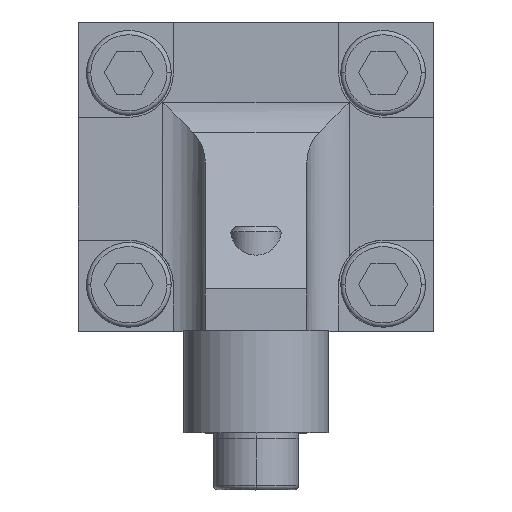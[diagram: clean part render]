
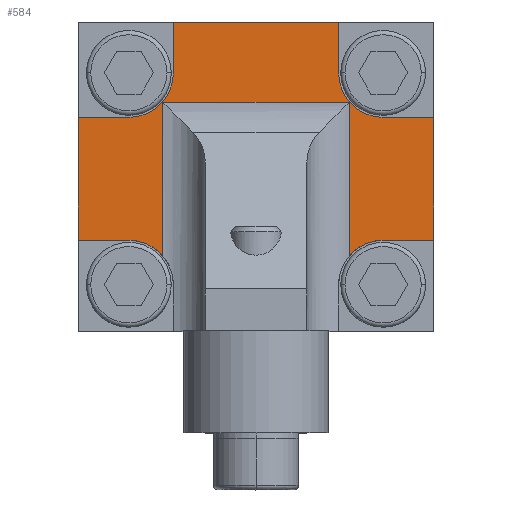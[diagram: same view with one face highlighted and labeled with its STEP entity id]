
A CAD part, top view. The second image highlights one B-rep face of the part: STEP entity #584.
In plain terms, the highlighted planar face has unit normal (0, 0, 1).
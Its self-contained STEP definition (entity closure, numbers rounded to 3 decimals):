
#11 = DIRECTION ( 'NONE',  ( 0., 0., -1. ) ) ;
#39 = DIRECTION ( 'NONE',  ( 1., 0., 0. ) ) ;
#70 = ORIENTED_EDGE ( 'NONE', *, *, #3861, .T. ) ;
#105 = EDGE_CURVE ( 'NONE', #2821, #6023, #6749, .T. ) ;
#134 = VECTOR ( 'NONE', #334, 1000. ) ;
#147 = VECTOR ( 'NONE', #1211, 1000. ) ;
#201 = ORIENTED_EDGE ( 'NONE', *, *, #4962, .F. ) ;
#326 = DIRECTION ( 'NONE',  ( 0., 0., 1. ) ) ;
#334 = DIRECTION ( 'NONE',  ( 0., -1., 0. ) ) ;
#359 = VERTEX_POINT ( 'NONE', #1442 ) ;
#366 = ORIENTED_EDGE ( 'NONE', *, *, #4429, .F. ) ;
#395 = CARTESIAN_POINT ( 'NONE',  ( 15., 17.5, 12. ) ) ;
#419 = ORIENTED_EDGE ( 'NONE', *, *, #2150, .F. ) ;
#472 = LINE ( 'NONE', #6449, #6405 ) ;
#490 = CARTESIAN_POINT ( 'NONE',  ( 9.75, 48.5, 12. ) ) ;
#509 = DIRECTION ( 'NONE',  ( 0., 0., 1. ) ) ;
#515 = EDGE_CURVE ( 'NONE', #4555, #2652, #6852, .T. ) ;
#544 = CARTESIAN_POINT ( 'NONE',  ( -11., 39.036, 12. ) ) ;
#584 = ADVANCED_FACE ( 'NONE', ( #5894 ), #1012, .F. ) ;
#834 = VECTOR ( 'NONE', #39, 1000. ) ;
#866 = DIRECTION ( 'NONE',  ( -1., 0., 0. ) ) ;
#894 = VERTEX_POINT ( 'NONE', #5684 ) ;
#917 = CARTESIAN_POINT ( 'NONE',  ( -21., 37.25, 12. ) ) ;
#1012 = PLANE ( 'NONE',  #2765 ) ;
#1025 = CARTESIAN_POINT ( 'NONE',  ( 11., 39.036, 12. ) ) ;
#1058 = AXIS2_PLACEMENT_3D ( 'NONE', #1494, #509, #4236 ) ;
#1085 = VECTOR ( 'NONE', #4563, 1000. ) ;
#1211 = DIRECTION ( 'NONE',  ( -1., 0., 0. ) ) ;
#1261 = VECTOR ( 'NONE', #1332, 1000. ) ;
#1284 = CARTESIAN_POINT ( 'NONE',  ( 0., 22.75, 12. ) ) ;
#1332 = DIRECTION ( 'NONE',  ( -1., 0., 0. ) ) ;
#1442 = CARTESIAN_POINT ( 'NONE',  ( -11., 20.9, 12. ) ) ;
#1458 = CARTESIAN_POINT ( 'NONE',  ( -15., 42.5, 12. ) ) ;
#1493 = AXIS2_PLACEMENT_3D ( 'NONE', #1458, #326, #2389 ) ;
#1494 = CARTESIAN_POINT ( 'NONE',  ( -15., 17.5, 12. ) ) ;
#1560 = EDGE_CURVE ( 'NONE', #6785, #1960, #1587, .T. ) ;
#1587 = LINE ( 'NONE', #3215, #5888 ) ;
#1718 = LINE ( 'NONE', #5992, #4336 ) ;
#1755 = LINE ( 'NONE', #6087, #147 ) ;
#1785 = LINE ( 'NONE', #1284, #3768 ) ;
#1799 = DIRECTION ( 'NONE',  ( 1., 0., 0. ) ) ;
#1840 = CARTESIAN_POINT ( 'NONE',  ( -15., 37.25, 12. ) ) ;
#1960 = VERTEX_POINT ( 'NONE', #5734 ) ;
#2092 = CIRCLE ( 'NONE', #3464, 5.25 ) ;
#2150 = EDGE_CURVE ( 'NONE', #3324, #6438, #4955, .T. ) ;
#2203 = CARTESIAN_POINT ( 'NONE',  ( 21., 37.25, 12. ) ) ;
#2217 = CARTESIAN_POINT ( 'NONE',  ( 9.75, 0., 12. ) ) ;
#2276 = DIRECTION ( 'NONE',  ( 0., -1., 0. ) ) ;
#2301 = EDGE_CURVE ( 'NONE', #5975, #2548, #2466, .T. ) ;
#2357 = CARTESIAN_POINT ( 'NONE',  ( 15., 37.25, 12. ) ) ;
#2368 = CARTESIAN_POINT ( 'NONE',  ( -15., 22.75, 12. ) ) ;
#2369 = CARTESIAN_POINT ( 'NONE',  ( -9.75, 42.5, 12. ) ) ;
#2389 = DIRECTION ( 'NONE',  ( -1., 0., 0. ) ) ;
#2464 = ORIENTED_EDGE ( 'NONE', *, *, #5748, .T. ) ;
#2466 = LINE ( 'NONE', #5226, #2883 ) ;
#2548 = VERTEX_POINT ( 'NONE', #3873 ) ;
#2592 = EDGE_LOOP ( 'NONE', ( #6215, #6708, #70, #366, #201, #3452, #419, #2709, #5868, #2464, #4112, #3721, #3971, #6617, #2949, #4156 ) ) ;
#2652 = VERTEX_POINT ( 'NONE', #2931 ) ;
#2675 = DIRECTION ( 'NONE',  ( -1., 0., 0. ) ) ;
#2709 = ORIENTED_EDGE ( 'NONE', *, *, #3344, .F. ) ;
#2723 = VECTOR ( 'NONE', #5615, 1000. ) ;
#2765 = AXIS2_PLACEMENT_3D ( 'NONE', #7037, #11, #4366 ) ;
#2770 = CARTESIAN_POINT ( 'NONE',  ( 21., 22.75, 12. ) ) ;
#2821 = VERTEX_POINT ( 'NONE', #917 ) ;
#2883 = VECTOR ( 'NONE', #4581, 1000. ) ;
#2931 = CARTESIAN_POINT ( 'NONE',  ( 9.75, 42.5, 12. ) ) ;
#2949 = ORIENTED_EDGE ( 'NONE', *, *, #1560, .F. ) ;
#3169 = DIRECTION ( 'NONE',  ( 0., 1., 0. ) ) ;
#3215 = CARTESIAN_POINT ( 'NONE',  ( 0., 22.75, 12. ) ) ;
#3228 = AXIS2_PLACEMENT_3D ( 'NONE', #395, #5285, #866 ) ;
#3324 = VERTEX_POINT ( 'NONE', #2357 ) ;
#3344 = EDGE_CURVE ( 'NONE', #2652, #3324, #2092, .T. ) ;
#3393 = DIRECTION ( 'NONE',  ( 0., 0., 1. ) ) ;
#3452 = ORIENTED_EDGE ( 'NONE', *, *, #6264, .T. ) ;
#3464 = AXIS2_PLACEMENT_3D ( 'NONE', #4013, #3393, #4925 ) ;
#3598 = LINE ( 'NONE', #5759, #134 ) ;
#3696 = CIRCLE ( 'NONE', #1058, 5.25 ) ;
#3721 = ORIENTED_EDGE ( 'NONE', *, *, #5566, .F. ) ;
#3768 = VECTOR ( 'NONE', #6121, 1000. ) ;
#3861 = EDGE_CURVE ( 'NONE', #5179, #5265, #3598, .T. ) ;
#3873 = CARTESIAN_POINT ( 'NONE',  ( -9.75, 48.5, 12. ) ) ;
#3971 = ORIENTED_EDGE ( 'NONE', *, *, #105, .F. ) ;
#4013 = CARTESIAN_POINT ( 'NONE',  ( 15., 42.5, 12. ) ) ;
#4112 = ORIENTED_EDGE ( 'NONE', *, *, #2301, .F. ) ;
#4156 = ORIENTED_EDGE ( 'NONE', *, *, #6943, .F. ) ;
#4236 = DIRECTION ( 'NONE',  ( -1., 0., 0. ) ) ;
#4260 = CIRCLE ( 'NONE', #3228, 5.25 ) ;
#4290 = VECTOR ( 'NONE', #1799, 1000. ) ;
#4336 = VECTOR ( 'NONE', #2276, 1000. ) ;
#4366 = DIRECTION ( 'NONE',  ( -1., 0., 0. ) ) ;
#4385 = EDGE_CURVE ( 'NONE', #5179, #6628, #1755, .T. ) ;
#4414 = LINE ( 'NONE', #6693, #2723 ) ;
#4429 = EDGE_CURVE ( 'NONE', #894, #5265, #4260, .T. ) ;
#4553 = CIRCLE ( 'NONE', #1493, 5.25 ) ;
#4555 = VERTEX_POINT ( 'NONE', #490 ) ;
#4563 = DIRECTION ( 'NONE',  ( 0., -1., 0. ) ) ;
#4581 = DIRECTION ( 'NONE',  ( 0., 1., 0. ) ) ;
#4582 = CARTESIAN_POINT ( 'NONE',  ( 0., 37.25, 12. ) ) ;
#4925 = DIRECTION ( 'NONE',  ( -1., 0., 0. ) ) ;
#4955 = LINE ( 'NONE', #5028, #834 ) ;
#4962 = EDGE_CURVE ( 'NONE', #5660, #894, #1785, .T. ) ;
#5028 = CARTESIAN_POINT ( 'NONE',  ( 0., 37.25, 12. ) ) ;
#5145 = CARTESIAN_POINT ( 'NONE',  ( -21., 48.5, 12. ) ) ;
#5179 = VERTEX_POINT ( 'NONE', #1025 ) ;
#5226 = CARTESIAN_POINT ( 'NONE',  ( -9.75, 0., 12. ) ) ;
#5265 = VERTEX_POINT ( 'NONE', #6072 ) ;
#5285 = DIRECTION ( 'NONE',  ( 0., 0., 1. ) ) ;
#5566 = EDGE_CURVE ( 'NONE', #6023, #5975, #4553, .T. ) ;
#5615 = DIRECTION ( 'NONE',  ( 0., 1., 0. ) ) ;
#5654 = EDGE_CURVE ( 'NONE', #2821, #1960, #1718, .T. ) ;
#5660 = VERTEX_POINT ( 'NONE', #2770 ) ;
#5684 = CARTESIAN_POINT ( 'NONE',  ( 15., 22.75, 12. ) ) ;
#5734 = CARTESIAN_POINT ( 'NONE',  ( -21., 22.75, 12. ) ) ;
#5748 = EDGE_CURVE ( 'NONE', #4555, #2548, #6244, .T. ) ;
#5759 = CARTESIAN_POINT ( 'NONE',  ( 11., 0., 12. ) ) ;
#5868 = ORIENTED_EDGE ( 'NONE', *, *, #515, .F. ) ;
#5888 = VECTOR ( 'NONE', #2675, 1000. ) ;
#5894 = FACE_OUTER_BOUND ( 'NONE', #2592, .T. ) ;
#5975 = VERTEX_POINT ( 'NONE', #2369 ) ;
#5983 = EDGE_CURVE ( 'NONE', #359, #6628, #4414, .T. ) ;
#5992 = CARTESIAN_POINT ( 'NONE',  ( -21., 0., 12. ) ) ;
#6023 = VERTEX_POINT ( 'NONE', #1840 ) ;
#6072 = CARTESIAN_POINT ( 'NONE',  ( 11., 20.9, 12. ) ) ;
#6087 = CARTESIAN_POINT ( 'NONE',  ( 6., 39.036, 12. ) ) ;
#6121 = DIRECTION ( 'NONE',  ( -1., 0., 0. ) ) ;
#6215 = ORIENTED_EDGE ( 'NONE', *, *, #5983, .T. ) ;
#6244 = LINE ( 'NONE', #5145, #1261 ) ;
#6264 = EDGE_CURVE ( 'NONE', #5660, #6438, #472, .T. ) ;
#6405 = VECTOR ( 'NONE', #3169, 1000. ) ;
#6438 = VERTEX_POINT ( 'NONE', #2203 ) ;
#6449 = CARTESIAN_POINT ( 'NONE',  ( 21., 0., 12. ) ) ;
#6617 = ORIENTED_EDGE ( 'NONE', *, *, #5654, .T. ) ;
#6628 = VERTEX_POINT ( 'NONE', #544 ) ;
#6693 = CARTESIAN_POINT ( 'NONE',  ( -11., 39.036, 12. ) ) ;
#6708 = ORIENTED_EDGE ( 'NONE', *, *, #4385, .F. ) ;
#6749 = LINE ( 'NONE', #4582, #4290 ) ;
#6785 = VERTEX_POINT ( 'NONE', #2368 ) ;
#6852 = LINE ( 'NONE', #2217, #1085 ) ;
#6943 = EDGE_CURVE ( 'NONE', #359, #6785, #3696, .T. ) ;
#7037 = CARTESIAN_POINT ( 'NONE',  ( 0., 0., 12. ) ) ;
